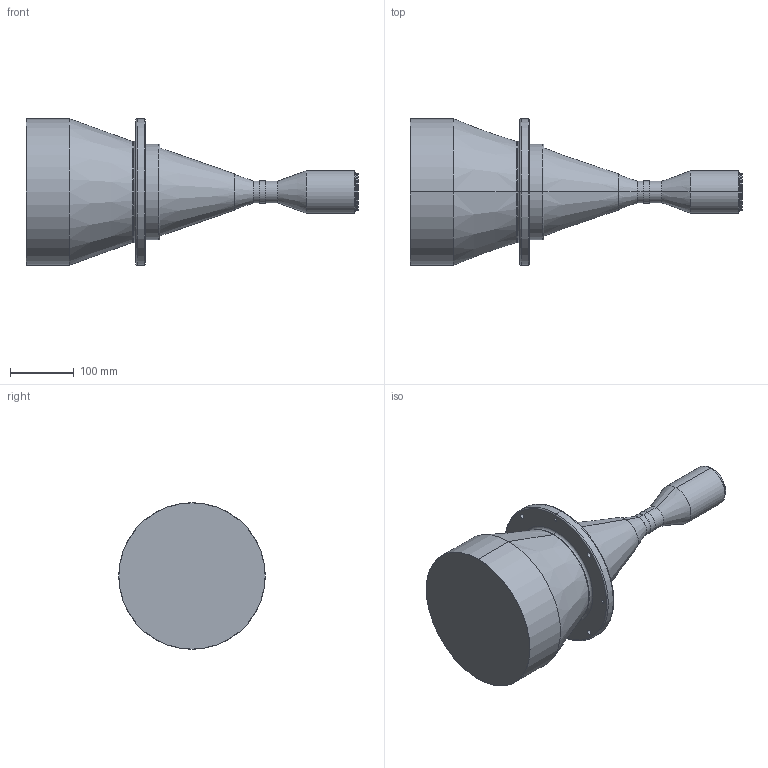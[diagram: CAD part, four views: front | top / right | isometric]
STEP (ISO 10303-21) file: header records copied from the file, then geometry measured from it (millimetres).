
FILE_DESCRIPTION (( 'STEP AP203' ), '1' );
FILE_NAME ('DTCM71M-190-M58-AL.STEP', '2019-11-19T08:39:31', ( 'Windows 蚚誧' ), ( '' ), 'SwSTEP 2.0', 'SolidWorks 2017', '' );
FILE_SCHEMA (( 'CONFIG_CONTROL_DESIGN' ));
Length unit declared in the file: millimetre
Products named in the file (1): DTCM71M-190-M58-AL
Bounding box: 520.4 x 230 x 230 mm (x, y, z)
Volume: 8275057.8 mm3; surface area: 301029 mm2
Topology: 1 solids, 1 shells, 70 faces, 154 edges, 94 vertices
Faces by surface type: cylinder 34, cone 14, torus 12, plane 10
Entity records: 2065 total; most frequent: DIRECTION 402, CARTESIAN_POINT 319, ORIENTED_EDGE 308, AXIS2_PLACEMENT_3D 177, EDGE_CURVE 154, CIRCLE 106, VERTEX_POINT 94, EDGE_LOOP 94
